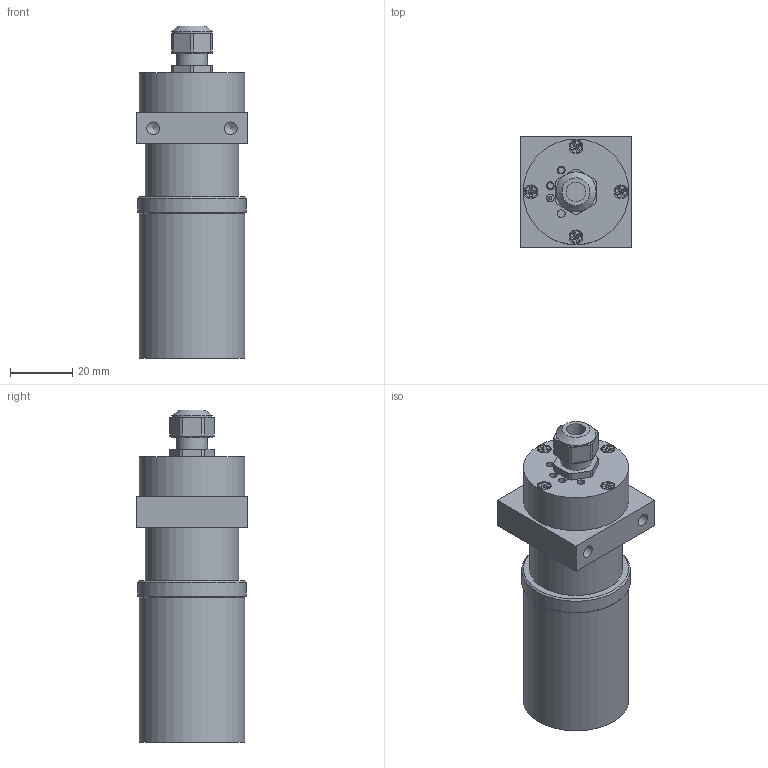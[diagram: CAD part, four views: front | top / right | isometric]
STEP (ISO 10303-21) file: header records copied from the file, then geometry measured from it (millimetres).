
FILE_DESCRIPTION( ( '' ), '1' );
FILE_NAME( 'L:/01_Produktserie LUMIMAX/Spot-Serie/Spot5W/03_Konstruktion/Spot5W Download & Katalog/Spot5W-Spot5W FL.stp', '%{Zugriffsdatum}', ( 'Christian Koch' ), ( 'iiM AG' ), 'PSStep 13.0', 'Solid Edge', ' ' );
FILE_SCHEMA( ( 'AUTOMOTIVE_DESIGN { 1 0 10303 214 1 1 1 1 }' ) );
Length unit declared in the file: millimetre
Products named in the file (1): Kabelverschraubung M10
Bounding box: 36 x 36 x 107 mm (x, y, z)
Volume: 75337.3 mm3; surface area: 26449.3 mm2
Topology: 1 solids, 10 shells, 298 faces, 728 edges, 479 vertices
Faces by surface type: plane 145, cylinder 106, cone 38, bspline 5, torus 4
Full cylindrical faces by diameter (mm): 1.454 x4, 1.567 x6, 2.2 x4, 2.459 x6, 3 x1, 4.134 x4, 6.25 x1, 6.6 x1, 7 x2, 8.376 x1, 10 x1, 12.9 x2, 24 x2, 25 x1, 28.376 x1, 29.959 x1, 30 x1, 34 x2, 35 x1
Entity records: 10541 total; most frequent: CARTESIAN_POINT 1624, DIRECTION 1392, ORIENTED_EDGE 1196, EDGE_CURVE 598, AXIS2_PLACEMENT_3D 544, VERTEX_POINT 436, EDGE_LOOP 408, FACE_OUTER_BOUND 349
